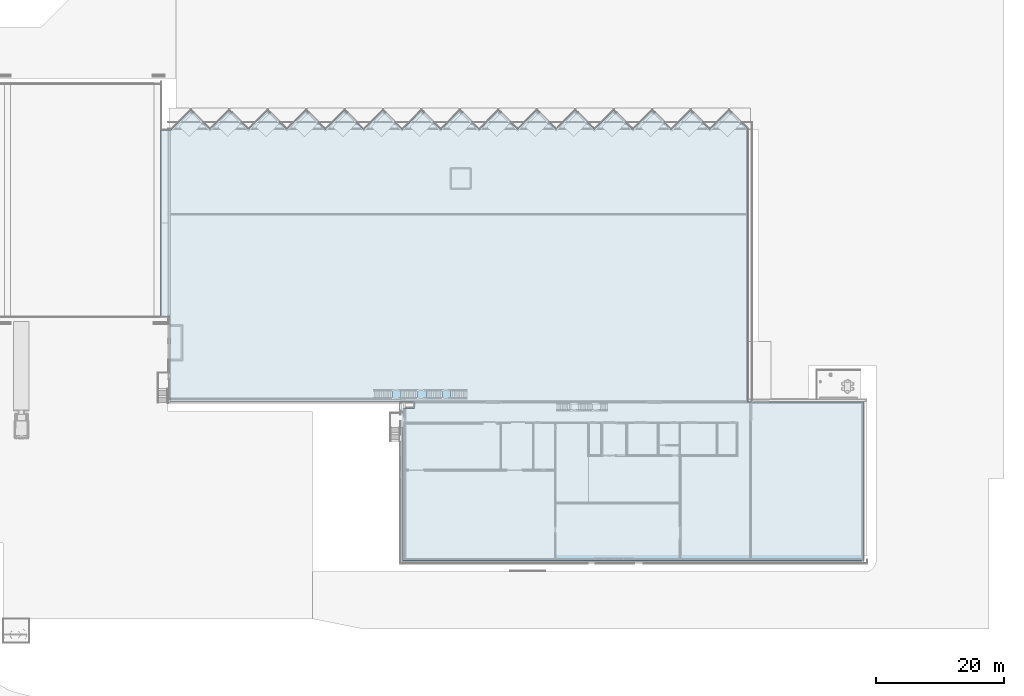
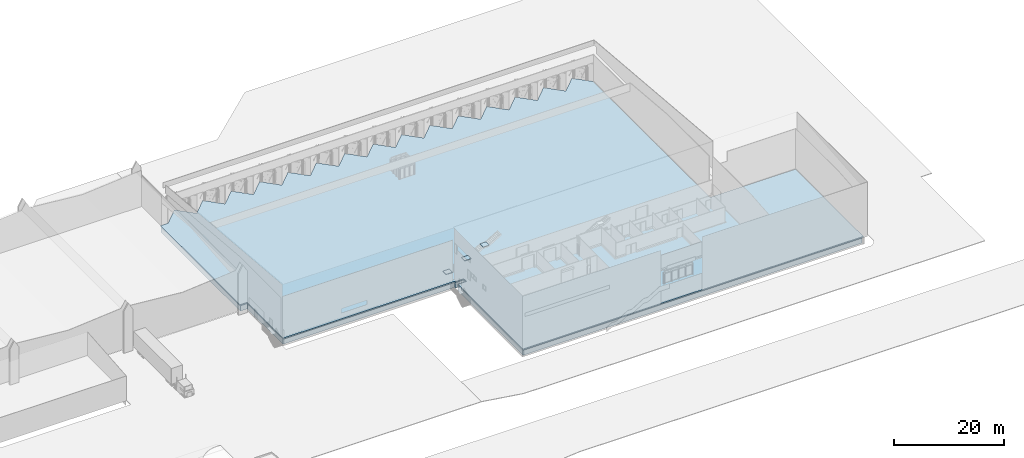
# One storey, part 13 of 64: 5 slabs, 1 element without a shape of its own.
"""IFC2X3 building model written with IfcOpenShell, lengths in millimetres."""

from ifc_helpers import new_model, entity, si_unit, converted_unit, derived_unit, direction, frame, frame_2d, origin, origin_2d_with_axis, place, context, subcontext, project, spatial, polyline, rectangle, outline, extrude, material, layer, layer_set, layer_usage, element, aggregate, save


model = new_model("IFC2X3")

# Units and contexts
model_context = context("Model", 3, precision=0.01, world=origin(), true_north=direction((4.05803320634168e-15, -1.0)))
body_context = subcontext(model_context, "Body", "Model", "MODEL_VIEW")
ifc_project = project(units=[si_unit("LENGTHUNIT", "METRE", prefix="MILLI"), si_unit("AREAUNIT", "SQUARE_METRE"), si_unit("VOLUMEUNIT", "CUBIC_METRE"), converted_unit("PLANEANGLEUNIT", "DEGREE", entity("IfcRatioMeasure", 0.0174532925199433), si_unit("PLANEANGLEUNIT", "RADIAN"), dimensions=[0, 0, 0, 0, 0, 0, 0]), si_unit("MASSUNIT", "GRAM", prefix="KILO"), derived_unit("MASSDENSITYUNIT", [(si_unit("MASSUNIT", "GRAM", prefix="KILO"), 1), (si_unit("LENGTHUNIT", "METRE"), -3)]), si_unit("TIMEUNIT", "SECOND"), si_unit("FREQUENCYUNIT", "HERTZ"), si_unit("THERMODYNAMICTEMPERATUREUNIT", "DEGREE_CELSIUS"), derived_unit("THERMALTRANSMITTANCEUNIT", [(si_unit("MASSUNIT", "GRAM", prefix="KILO"), 1), (si_unit("THERMODYNAMICTEMPERATUREUNIT", "KELVIN"), -1), (si_unit("TIMEUNIT", "SECOND"), -3)]), derived_unit("VOLUMETRICFLOWRATEUNIT", [(si_unit("LENGTHUNIT", "METRE"), 3), (si_unit("TIMEUNIT", "SECOND"), -1)]), si_unit("ELECTRICCURRENTUNIT", "AMPERE"), si_unit("ELECTRICVOLTAGEUNIT", "VOLT"), si_unit("POWERUNIT", "WATT"), si_unit("FORCEUNIT", "NEWTON", prefix="KILO"), si_unit("ILLUMINANCEUNIT", "LUX"), si_unit("LUMINOUSFLUXUNIT", "LUMEN"), si_unit("LUMINOUSINTENSITYUNIT", "CANDELA"), derived_unit("USERDEFINED", [(si_unit("MASSUNIT", "GRAM", prefix="KILO"), -1), (si_unit("LENGTHUNIT", "METRE"), -2), (si_unit("TIMEUNIT", "SECOND"), 3), (si_unit("LUMINOUSFLUXUNIT", "LUMEN"), 1)]), derived_unit("LINEARVELOCITYUNIT", [(si_unit("LENGTHUNIT", "METRE"), 1), (si_unit("TIMEUNIT", "SECOND"), -1)]), si_unit("PRESSUREUNIT", "PASCAL"), derived_unit("USERDEFINED", [(si_unit("LENGTHUNIT", "METRE"), -2), (si_unit("MASSUNIT", "GRAM", prefix="KILO"), 1), (si_unit("TIMEUNIT", "SECOND"), -2)])], contexts=[model_context])

# Site, building, storey
site_placement = place(None, frame((927466.849349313, 583801.882853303, 0.0), z_axis=(0.0, 0.0, 1.0), x_axis=(-1.0, 0.0, 0.0)))
site = spatial("IfcSite", under=ifc_project, at=site_placement, Name="Surface", CompositionType="ELEMENT")
building_placement = place(site_placement, origin())
building = spatial("IfcBuilding", under=site, at=building_placement, CompositionType="ELEMENT")
storey_placement = place(building_placement, frame((0.0, 0.0, 44170.0)))
storey = spatial("IfcBuildingStorey", under=building, at=storey_placement, Name="Ground FFL", CompositionType="ELEMENT", Elevation=44170.0)

# Slabs
ifc_material_1 = material(Name="Earth")
ifc_layer_1 = layer(ifc_material_1, 1200.0)
ifc_layer_set_1 = layer_set([ifc_layer_1], Name="Floor:Earth")
ifc_layer_usage_1 = layer_usage(ifc_layer_set_1, "AXIS3", "POSITIVE", 0.0)
slab_1_placement = place(storey_placement, origin())
element("IfcSlab", 1, at=slab_1_placement, inside=storey, material=ifc_layer_usage_1, Name="Floor:Earth", ObjectType="Floor:Earth", PredefinedType="FLOOR", context=body_context, shape_type="SweptSolid", body=[
    extrude(outline(polyline([(30918.952753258, -64024.2521780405), (55918.9527532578, -64024.2521780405), (55918.9527532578, 7473.84628976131), (32109.9527532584, 7473.84628976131), (32109.9527532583, 5657.08027884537), (31148.9527532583, 5657.08027884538), (31148.9527532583, 7473.84628976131), (30918.9527532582, 7473.84628976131), (30918.9527532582, 43675.3957398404), (17919.3103823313, 43675.3957398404), (17919.3103823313, 45147.5770397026), (-11081.0653189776, 45147.5770397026), (-11081.0653189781, 43372.9055017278), (-14009.3832008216, 40444.5876198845), (-11016.7215604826, 37451.9259795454), (-14009.3832008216, 34459.2643392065), (-11016.7215604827, 31466.6026988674), (-14009.3832008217, 28473.9410585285), (-11016.7215604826, 25481.2794181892), (-14009.3832008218, 22488.6177778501), (-11016.7215604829, 19495.956137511), (-14009.3832008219, 16503.2944971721), (-11016.7215604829, 13510.632856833), (-14009.383200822, 10517.9712164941), (-11016.721560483, 7525.30957615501), (-14009.3832008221, 4532.64793581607), (-11016.7215604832, 1539.98629547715), (-14009.3832008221, -1452.67534486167), (-11016.7215604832, -4445.33698520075), (-14009.3832008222, -7437.99862553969), (-11016.7215604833, -10430.6602658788), (-14009.3832008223, -13423.3219062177), (-11016.7215604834, -16415.9835465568), (-14009.3832008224, -19408.6451868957), (-11016.7215604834, -22401.3068272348), (-14009.3832008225, -25393.9684675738), (-11016.7215604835, -28386.6301079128), (-14009.3832008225, -31379.2917482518), (-11016.7215604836, -34371.9533885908), (-14009.3832008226, -37364.6150289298), (-11016.7215604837, -40357.2766692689), (-14009.3832008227, -43349.9383096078), (-11333.1678001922, -46026.1537102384), (30918.9527532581, -46026.1537102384), (30918.952753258, -64024.2521780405)])), frame((-88574.438069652, -19240.6750020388, -200.0), z_axis=(0.0, 0.0, -1.0), x_axis=(0.0, 1.0, 0.0)), (0.0, 0.0, 1.0), 1200.0),
])
ifc_material_2 = material(Name="cocn slab")
ifc_layer_2 = layer(ifc_material_2, 200.0)
ifc_layer_set_2 = layer_set([ifc_layer_2], Name="Floor:Generic 150mm")
ifc_layer_usage_2 = layer_usage(ifc_layer_set_2, "AXIS3", "POSITIVE", 0.0)
slab_2_placement = place(storey_placement, origin())
element("IfcSlab", 2, at=slab_2_placement, inside=storey, material=ifc_layer_usage_2, Name="Floor:Generic 150mm", ObjectType="Floor:Generic 150mm", PredefinedType="FLOOR", context=body_context, shape_type="SweptSolid", body=[
    extrude(outline(polyline([(31329.5727844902, -64257.9531487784), (56099.5727844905, -64257.9531487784), (56099.5727844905, 7490.14531902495), (32290.5727844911, 7490.14531902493), (32290.572784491, 5673.3793081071), (31329.572784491, 5673.37930810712), (31329.572784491, 7490.14531902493), (31207.5727844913, 7490.14531902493), (31207.5727844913, 43691.6947691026), (18030.930413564, 43691.6947691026), (18030.9304135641, 45163.8760689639), (-11000.4452877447, 45163.8760689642), (-11000.4452877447, 43572.0472434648), (-14111.6058820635, 40460.8866491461), (-11118.9442417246, 37468.225008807), (-14111.6058820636, 34475.563368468), (-11118.9442417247, 31482.9017281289), (-14111.6058820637, 28490.24008779), (-11118.9442417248, 25497.578447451), (-14111.6058820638, 22504.9168071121), (-11118.9442417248, 19512.255166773), (-14111.6058820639, 16519.5935264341), (-11118.9442417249, 13526.931886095), (-14111.6058820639, 10534.2702457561), (-11118.944241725, 7541.60860541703), (-14111.605882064, 4548.9469650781), (-11118.9442417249, 1556.28532473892), (-14111.6058820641, -1436.37631560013), (-11118.9442417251, -4429.03795593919), (-14111.6058820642, -7421.69959627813), (-11118.9442417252, -10414.3612366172), (-14111.6058820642, -13407.0228769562), (-11118.9442417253, -16399.6845172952), (-14111.6058820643, -19392.3461576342), (-11118.9442417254, -22385.0077979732), (-14111.6058820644, -25377.6694383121), (-11118.9442417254, -28370.3310786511), (-14111.6058820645, -31362.9927189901), (-11118.9442417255, -34355.6543593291), (-14111.6058820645, -37348.3159996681), (-11118.9442417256, -40340.977640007), (-14111.6058820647, -43333.6392803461), (-11235.3904814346, -46209.8546809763), (31329.5727844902, -46209.8546809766), (31329.5727844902, -64257.9531487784)])), frame((-88590.7370989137, -19421.2950332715, 0.0), z_axis=(0.0, 0.0, -1.0), x_axis=(0.0, 1.0, 0.0)), (0.0, 0.0, 1.0), 199.999999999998),
])

# Stair, slabs
stair_placement = place(storey_placement, origin())
stair = element("IfcStair", 3, at=stair_placement, inside=storey, Name="Assembled Stair:Stair", ObjectType="Assembled Stair:190mm max riser 250mm going", ShapeType="NOTDEFINED")
slab_3_placement = place(stair_placement, origin())
slab_3 = element("IfcSlab", 4, at=slab_3_placement, Name="Assembled Stair:Stair:516542 Landing 1", ObjectType="Assembled Stair:190mm max riser 250mm going", PredefinedType="LANDING", context=body_context, shape_type="SweptSolid", body=[
    extrude(rectangle(XDim=1200.0, YDim=1280.0, at=frame_2d((0.0, -8.69704308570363e-12), x_axis=(1.0, 0.0))), frame((-87959.0398327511, 10739.2777512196, 5134.64157839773), z_axis=(0.0, 0.0, 1.0), x_axis=(0.0, 1.0, 0.0)), (0.0, 0.0, 1.0), 49.9999999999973),
])
slab_4_placement = place(stair_placement, origin())
slab_4 = element("IfcSlab", 5, at=slab_4_placement, Name="Assembled Stair:Stair:516542 Landing 2", ObjectType="Assembled Stair:190mm max riser 250mm going", PredefinedType="LANDING", context=body_context, shape_type="SweptSolid", body=[
    extrude(rectangle(XDim=1200.0, YDim=1401.89903513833, at=frame_2d((0.0, 8.64019966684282e-12), x_axis=(1.0, 0.0))), frame((-84098.0903151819, 10739.2777512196, 3462.17655310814), z_axis=(0.0, 0.0, 1.0), x_axis=(0.0, 1.0, 0.0)), (0.0, 0.0, 1.0), 49.9999999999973),
])
slab_5_placement = place(stair_placement, origin())
slab_5 = element("IfcSlab", 6, at=slab_5_placement, Name="Assembled Stair:Stair:516542 Landing 3", ObjectType="Assembled Stair:190mm max riser 250mm going", PredefinedType="LANDING", context=body_context, shape_type="SweptSolid", body=[
    extrude(rectangle(XDim=1200.0, YDim=1379.99999999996, at=origin_2d_with_axis()), frame((-80187.1407976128, 10739.2777512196, 1789.71152781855), z_axis=(0.0, 0.0, 1.0), x_axis=(0.0, 1.0, 0.0)), (0.0, 0.0, 1.0), 49.9999999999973),
])
aggregate(stair, [slab_3, slab_4, slab_5])

save(model, "model.ifc")
